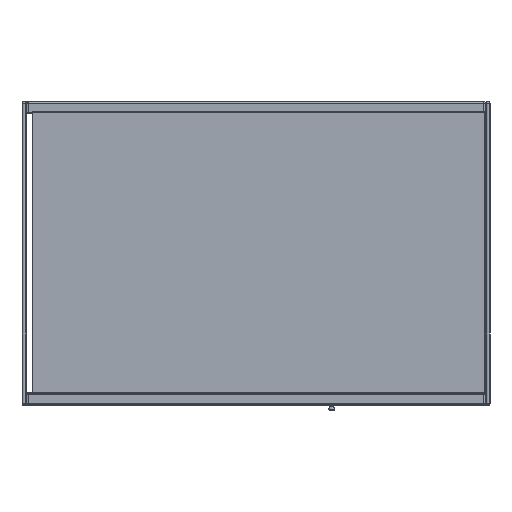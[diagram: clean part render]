
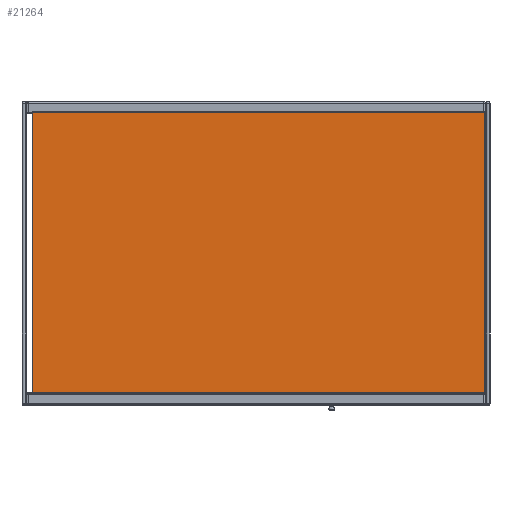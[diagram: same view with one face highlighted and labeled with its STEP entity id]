
A CAD part, top view. The second image highlights one B-rep face of the part: STEP entity #21264.
In plain terms, the highlighted planar face has unit normal (0, 0, 1).
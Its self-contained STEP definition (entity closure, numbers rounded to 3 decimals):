
#2761=FACE_OUTER_BOUND('',#4033,.T.);
#4033=EDGE_LOOP('',(#14386,#14387,#14388,#14389));
#5463=LINE('',#32044,#7397);
#5467=LINE('',#32052,#7401);
#5468=LINE('',#32054,#7402);
#5469=LINE('',#32055,#7403);
#7397=VECTOR('',#25443,10.);
#7401=VECTOR('',#25449,10.);
#7402=VECTOR('',#25450,10.);
#7403=VECTOR('',#25451,10.);
#9327=VERTEX_POINT('',#32042);
#9328=VERTEX_POINT('',#32043);
#9331=VERTEX_POINT('',#32051);
#9332=VERTEX_POINT('',#32053);
#11303=EDGE_CURVE('',#9327,#9328,#5463,.T.);
#11307=EDGE_CURVE('',#9328,#9331,#5467,.T.);
#11308=EDGE_CURVE('',#9331,#9332,#5468,.T.);
#11309=EDGE_CURVE('',#9332,#9327,#5469,.T.);
#14386=ORIENTED_EDGE('',*,*,#11303,.T.);
#14387=ORIENTED_EDGE('',*,*,#11307,.T.);
#14388=ORIENTED_EDGE('',*,*,#11308,.T.);
#14389=ORIENTED_EDGE('',*,*,#11309,.T.);
#20499=PLANE('',#23083);
#21264=ADVANCED_FACE('',(#2761),#20499,.T.);
#23083=AXIS2_PLACEMENT_3D('',#32050,#25447,#25448);
#25443=DIRECTION('',(1.,0.,0.));
#25447=DIRECTION('center_axis',(0.,0.,1.));
#25448=DIRECTION('ref_axis',(-1.,0.,0.));
#25449=DIRECTION('',(0.,1.,0.));
#25450=DIRECTION('',(-1.,0.,0.));
#25451=DIRECTION('',(0.,-1.,0.));
#32042=CARTESIAN_POINT('',(0.,-109.,2263.));
#32043=CARTESIAN_POINT('',(2220.,-109.,2263.));
#32044=CARTESIAN_POINT('',(1665.,-109.,2263.));
#32050=CARTESIAN_POINT('Origin',(1110.,505.,2263.));
#32051=CARTESIAN_POINT('',(2220.,1271.,2263.));
#32052=CARTESIAN_POINT('',(2220.,-261.,2263.));
#32053=CARTESIAN_POINT('',(0.,1271.,2263.));
#32054=CARTESIAN_POINT('',(2220.,1271.,2263.));
#32055=CARTESIAN_POINT('',(0.,45.,2263.));
